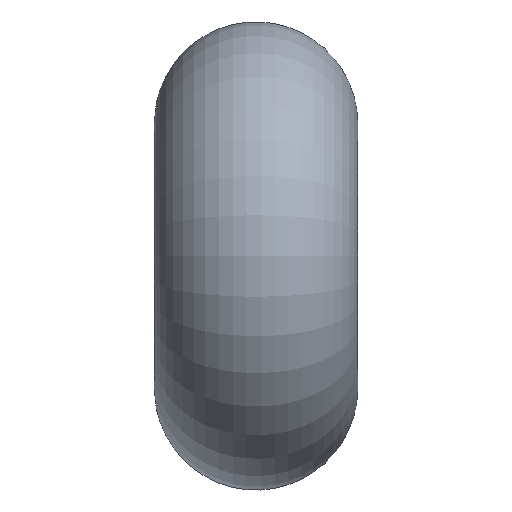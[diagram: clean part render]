
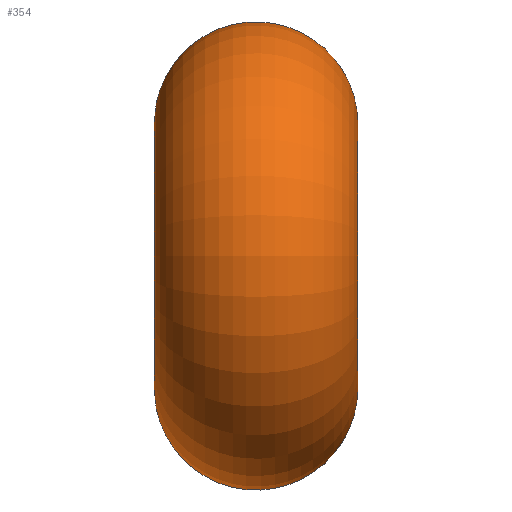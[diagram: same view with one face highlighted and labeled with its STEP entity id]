
A CAD part, left-side view. The second image highlights one B-rep face of the part: STEP entity #354.
In plain terms, the highlighted toroidal (fillet/blend) face has major radius 3.25 mm and minor radius 2.5 mm.
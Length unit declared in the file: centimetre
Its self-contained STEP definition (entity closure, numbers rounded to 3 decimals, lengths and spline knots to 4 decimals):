
#93=CARTESIAN_POINT('',(0.5411,0.1045,-0.1741));
#94=VERTEX_POINT('',#93);
#115=CARTESIAN_POINT('',(0.43,0.2117,-0.2807));
#116=VERTEX_POINT('',#115);
#124=CARTESIAN_POINT('',(0.43,0.2117,-0.2807));
#125=CARTESIAN_POINT('',(0.44,0.2148,-0.2604));
#126=CARTESIAN_POINT('',(0.4647,0.2135,-0.2189));
#127=CARTESIAN_POINT('',(0.5144,0.1774,-0.1719));
#128=CARTESIAN_POINT('',(0.5363,0.1318,-0.1681));
#129=CARTESIAN_POINT('',(0.5411,0.1045,-0.1741));
#130=B_SPLINE_CURVE_WITH_KNOTS('',3,(#124,#125,#126,#127,#128,#129),.UNSPECIFIED.,.F.,.U.,(4,1,1,4),(0.1885,0.2172,0.2459,0.2889),.UNSPECIFIED.);
#131=EDGE_CURVE('',#116,#94,#130,.T.);
#213=CARTESIAN_POINT('',(0.5411,0.1045,-0.1741));
#214=CARTESIAN_POINT('',(0.5421,0.0986,-0.1754));
#215=CARTESIAN_POINT('',(0.5436,0.0866,-0.1785));
#216=CARTESIAN_POINT('',(0.5437,0.0631,-0.1871));
#217=CARTESIAN_POINT('',(0.5384,0.0354,-0.2035));
#218=CARTESIAN_POINT('',(0.5236,0.0095,-0.2322));
#219=CARTESIAN_POINT('',(0.5066,-0.0035,-0.2614));
#220=CARTESIAN_POINT('',(0.4916,-0.0079,-0.2863));
#221=CARTESIAN_POINT('',(0.4762,-0.0082,-0.3115));
#222=CARTESIAN_POINT('',(0.4492,0.002,-0.3545));
#223=CARTESIAN_POINT('',(0.4165,0.0458,-0.4017));
#224=CARTESIAN_POINT('',(0.396,0.1219,-0.4069));
#225=CARTESIAN_POINT('',(0.3986,0.1863,-0.3595));
#226=CARTESIAN_POINT('',(0.417,0.2076,-0.3072));
#227=CARTESIAN_POINT('',(0.43,0.2117,-0.2807));
#228=B_SPLINE_CURVE_WITH_KNOTS('',3,(#213,#214,#215,#216,#217,#218,#219,#220,#221,#222,#223,#224,#225,#226,#227),.UNSPECIFIED.,.F.,.U.,(4,1,1,1,1,1,1,1,1,1,1,1,4),(0.,0.0132,0.0264,0.0528,0.0792,0.1057,0.1189,0.1321,0.1585,0.2113,0.2641,0.317,0.3698),.UNSPECIFIED.);
#229=EDGE_CURVE('',#94,#116,#228,.T.);
#290=CARTESIAN_POINT('',(0.0,0.0475,0.0));
#291=DIRECTION('',(0.0,1.0,0.0));
#292=DIRECTION('',(1.0,0.0,0.0));
#293=AXIS2_PLACEMENT_3D('',#290,#291,#292);
#294=TOROIDAL_SURFACE('',#293,0.325,0.25);
#295=CARTESIAN_POINT('',(0.43,-0.1167,0.2807));
#296=VERTEX_POINT('',#295);
#297=CARTESIAN_POINT('',(0.5411,-0.0095,0.1741));
#298=VERTEX_POINT('',#297);
#299=CARTESIAN_POINT('',(0.43,-0.1167,0.2807));
#300=CARTESIAN_POINT('',(0.44,-0.1198,0.2604));
#301=CARTESIAN_POINT('',(0.4647,-0.1185,0.2189));
#302=CARTESIAN_POINT('',(0.5144,-0.0824,0.1719));
#303=CARTESIAN_POINT('',(0.5363,-0.0368,0.1681));
#304=CARTESIAN_POINT('',(0.5411,-0.0095,0.1741));
#305=B_SPLINE_CURVE_WITH_KNOTS('',3,(#299,#300,#301,#302,#303,#304),.UNSPECIFIED.,.F.,.U.,(4,1,1,4),(0.1885,0.2172,0.2459,0.2889),.UNSPECIFIED.);
#306=EDGE_CURVE('',#296,#298,#305,.T.);
#307=ORIENTED_EDGE('',*,*,#306,.F.);
#308=CARTESIAN_POINT('',(0.5411,-0.0095,0.1741));
#309=CARTESIAN_POINT('',(0.5421,-0.0036,0.1754));
#310=CARTESIAN_POINT('',(0.5436,0.0084,0.1785));
#311=CARTESIAN_POINT('',(0.5437,0.0319,0.1871));
#312=CARTESIAN_POINT('',(0.5384,0.0596,0.2035));
#313=CARTESIAN_POINT('',(0.5236,0.0855,0.2322));
#314=CARTESIAN_POINT('',(0.5066,0.0985,0.2614));
#315=CARTESIAN_POINT('',(0.4916,0.1029,0.2863));
#316=CARTESIAN_POINT('',(0.4762,0.1032,0.3115));
#317=CARTESIAN_POINT('',(0.4492,0.093,0.3545));
#318=CARTESIAN_POINT('',(0.4165,0.0492,0.4017));
#319=CARTESIAN_POINT('',(0.396,-0.0269,0.4069));
#320=CARTESIAN_POINT('',(0.3986,-0.0913,0.3595));
#321=CARTESIAN_POINT('',(0.417,-0.1126,0.3072));
#322=CARTESIAN_POINT('',(0.43,-0.1167,0.2807));
#323=B_SPLINE_CURVE_WITH_KNOTS('',3,(#308,#309,#310,#311,#312,#313,#314,#315,#316,#317,#318,#319,#320,#321,#322),.UNSPECIFIED.,.F.,.U.,(4,1,1,1,1,1,1,1,1,1,1,1,4),(0.,0.0132,0.0264,0.0528,0.0792,0.1057,0.1189,0.1321,0.1585,0.2113,0.2641,0.317,0.3698),.UNSPECIFIED.);
#324=EDGE_CURVE('',#298,#296,#323,.T.);
#325=ORIENTED_EDGE('',*,*,#324,.F.);
#326=EDGE_LOOP('',(#307,#325));
#327=FACE_OUTER_BOUND('',#326,.T.);
#328=CARTESIAN_POINT('',(0.325,-0.2025,0.));
#329=VERTEX_POINT('',#328);
#330=CARTESIAN_POINT('',(0.0,-0.2025,0.0));
#331=DIRECTION('',(0.0,1.0,0.0));
#332=DIRECTION('',(-1.0,0.0,0.0));
#333=AXIS2_PLACEMENT_3D('',#330,#331,#332);
#334=CIRCLE('',#333,0.325);
#335=EDGE_CURVE('',#329,#329,#334,.T.);
#336=ORIENTED_EDGE('',*,*,#335,.T.);
#337=EDGE_LOOP('',(#336));
#338=FACE_BOUND('',#337,.T.);
#339=CARTESIAN_POINT('',(0.325,0.2975,0.));
#340=VERTEX_POINT('',#339);
#341=CARTESIAN_POINT('',(0.0,0.2975,0.0));
#342=DIRECTION('',(0.0,-1.0,0.0));
#343=DIRECTION('',(-1.0,0.0,0.0));
#344=AXIS2_PLACEMENT_3D('',#341,#342,#343);
#345=CIRCLE('',#344,0.325);
#346=EDGE_CURVE('',#340,#340,#345,.T.);
#347=ORIENTED_EDGE('',*,*,#346,.T.);
#348=EDGE_LOOP('',(#347));
#349=FACE_BOUND('',#348,.T.);
#350=ORIENTED_EDGE('',*,*,#131,.F.);
#351=ORIENTED_EDGE('',*,*,#229,.F.);
#352=EDGE_LOOP('',(#350,#351));
#353=FACE_BOUND('',#352,.T.);
#354=ADVANCED_FACE('',(#327,#338,#349,#353),#294,.T.);
